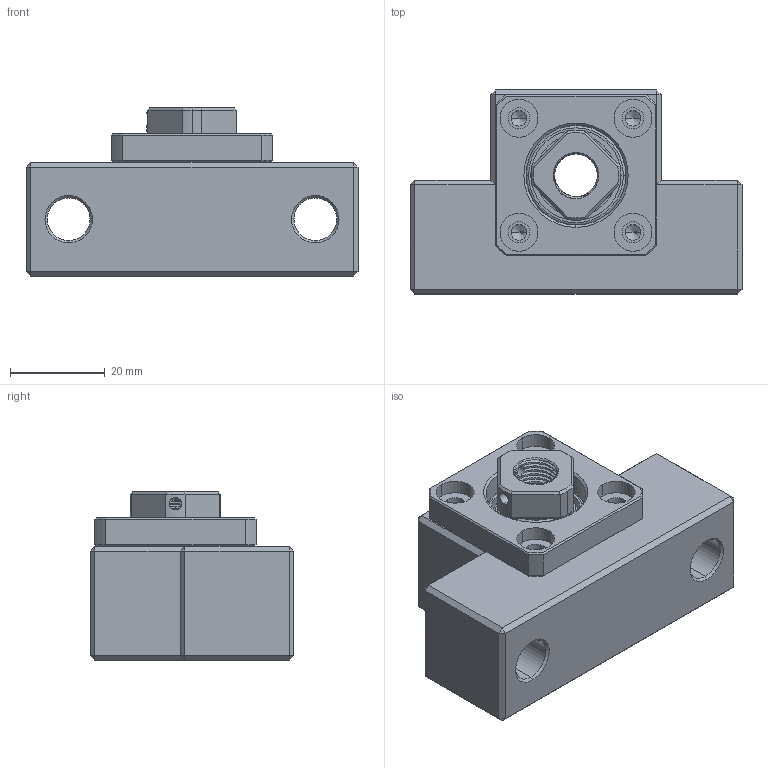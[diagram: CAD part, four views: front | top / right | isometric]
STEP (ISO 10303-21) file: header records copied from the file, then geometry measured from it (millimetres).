
FILE_DESCRIPTION (( 'STEP AP203' ), '1' );
FILE_NAME ('EK10²Õ¦X.STEP', '2010-08-11T09:01:05', ( '' ), ( '' ), 'SwSTEP 2.0', 'SolidWorks 2008', '' );
FILE_SCHEMA (( 'CONFIG_CONTROL_DESIGN' ));
Length unit declared in the file: millimetre
Products named in the file (1): EK10組合
Bounding box: 70 x 43 x 35.5 mm (x, y, z)
Volume: 53177.8 mm3; surface area: 25640.8 mm2
Topology: 29 solids, 29 shells, 421 faces, 972 edges, 578 vertices
Faces by surface type: cylinder 117, plane 99, torus 88, cone 66, sphere 36, bspline 15
Entity records: 18318 total; most frequent: CARTESIAN_POINT 9267, DIRECTION 2014, ORIENTED_EDGE 1748, EDGE_CURVE 874, AXIS2_PLACEMENT_3D 864, VERTEX_POINT 524, EDGE_LOOP 472, CIRCLE 457
